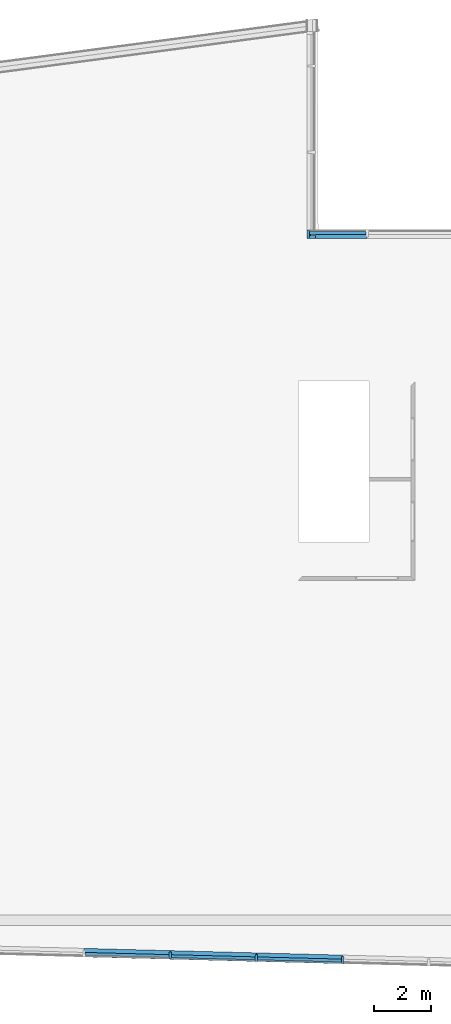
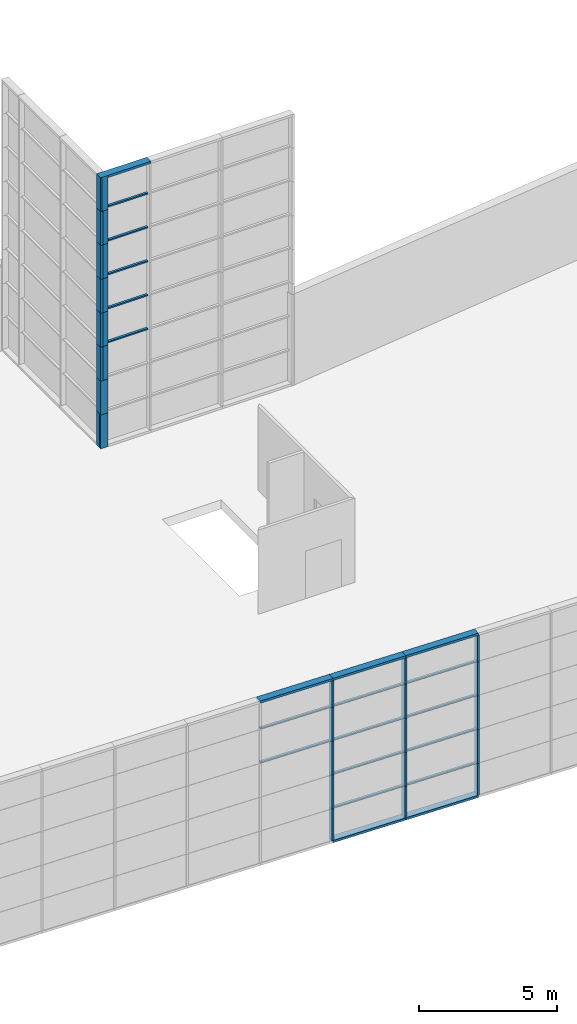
# One storey, part 4 of 27: 52 members, 3 elements without a shape of their own.
"""IFC2X3 building model written with IfcOpenShell, lengths in metres."""

from ifc_helpers import new_model, entity, si_unit, converted_unit, money_unit, direction, frame, origin_with_axes, place, context, subcontext, project, spatial, polyline, outline, extrude, clip, halfspace, material, type_object, element, aggregate, save


model = new_model("IFC2X3")

# Units and contexts
model_context = context("Model", 3, precision=1e-05, world=origin_with_axes(), true_north=direction((0.0, 1.0)))
body_context = subcontext(model_context, "Body", "Model", "MODEL_VIEW")
ifc_project = project(units=[si_unit("LENGTHUNIT", "METRE"), si_unit("AREAUNIT", "SQUARE_METRE"), si_unit("VOLUMEUNIT", "CUBIC_METRE"), converted_unit("PLANEANGLEUNIT", "DEGREE", entity("IfcPlaneAngleMeasure", 0.0174532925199), si_unit("PLANEANGLEUNIT", "RADIAN"), dimensions=[0, 0, 0, 0, 0, 0, 0]), si_unit("SOLIDANGLEUNIT", "STERADIAN"), money_unit("EUR"), converted_unit("TIMEUNIT", "Year", entity("IfcTimeMeasure", 31556926.0), si_unit("TIMEUNIT", "SECOND"), dimensions=[0, 0, 0, 0, 0, 0, 0]), si_unit("MASSUNIT", "GRAM"), si_unit("THERMODYNAMICTEMPERATUREUNIT", "DEGREE_CELSIUS"), si_unit("LUMINOUSINTENSITYUNIT", "LUMEN")], contexts=[model_context])

# Site, building, storey
site_placement = place(None, origin_with_axes())
site = spatial("IfcSite", under=ifc_project, at=site_placement, Name="Undefined", CompositionType="ELEMENT")
building_placement = place(site_placement, origin_with_axes())
building = spatial("IfcBuilding", under=site, at=building_placement, Name="Undefined", CompositionType="ELEMENT")
storey_placement = place(building_placement, frame((0.0, 0.0, 5.4), z_axis=(0.0, 0.0, 1.0), x_axis=(1.0, 0.0, 0.0)))
storey = spatial("IfcBuildingStorey", under=building, at=storey_placement, Name="R+1", CompositionType="ELEMENT", Elevation=5.4)

# Curtain wall, members
curtain_wall_type = type_object("IfcCurtainWallType", Name="Type de mur-rideau", PredefinedType="NOTDEFINED")
curtain_wall_1_placement = place(storey_placement, frame((29.5, 25.04409, 0.0), z_axis=(0.0, 0.0, 1.0), x_axis=(1.0, 0.0, 0.0)))
curtain_wall_1 = element("IfcCurtainWall", 1, at=curtain_wall_1_placement, inside=storey, type_object=curtain_wall_type, Name="CurtainWall_01", ObjectType="CURTAIN WALL")
ifc_material = material(Name="25 % 359672764")
member_type_1 = type_object("IfcMemberType", Name="Cadre 100 x 300", PredefinedType="NOTDEFINED")
member_1_placement = place(curtain_wall_1_placement, frame((0.0, -1.5, 0.0), z_axis=(0.0, 0.0, 1.0), x_axis=(0.0, -1.0, 0.0)))
member_1 = element("IfcMember", 2, at=member_1_placement, type_object=member_type_1, material=ifc_material, Name="Frame-Bnd-242", context=body_context, shape_type="Clipping", body=[
    clip(extrude(outline(polyline([(-0.25, 0.0), (0.05, 0.0), (0.05, 0.1), (-0.25, 0.1), (-0.25, 0.0)])), frame((0.0, 0.0, 0.0), z_axis=(0.0, 0.0, 1.0), x_axis=(0.0, 1.0, 0.0)), (0.0, 0.0, 1.0), 1.5), halfspace(frame((0.0, 0.0, 0.0), z_axis=(0.707106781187, 0.0, 0.707106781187), x_axis=(0.0, -1.0, 0.0)), True)),
])
member_2_placement = place(curtain_wall_1_placement, frame((0.0, -1.5, 1.5), z_axis=(0.0, 0.0, 1.0), x_axis=(0.0, -1.0, 0.0)))
member_2 = element("IfcMember", 3, at=member_2_placement, type_object=member_type_1, material=ifc_material, Name="Frame-Bnd-243", context=body_context, shape_type="SweptSolid", body=[
    extrude(outline(polyline([(-0.25, 0.0), (0.05, 0.0), (0.05, 0.1), (-0.25, 0.1), (-0.25, 0.0)])), frame((0.0, 0.0, 0.0), z_axis=(0.0, 0.0, 1.0), x_axis=(0.0, 1.0, 0.0)), (0.0, 0.0, 1.0), 1.5),
])
member_3_placement = place(curtain_wall_1_placement, frame((0.0, -1.5, 3.0), z_axis=(0.0, 0.0, 1.0), x_axis=(0.0, -1.0, 0.0)))
member_3 = element("IfcMember", 4, at=member_3_placement, type_object=member_type_1, material=ifc_material, Name="Frame-Bnd-244", context=body_context, shape_type="SweptSolid", body=[
    extrude(outline(polyline([(-0.25, 0.0), (0.05, 0.0), (0.05, 0.1), (-0.25, 0.1), (-0.25, 0.0)])), frame((0.0, 0.0, 0.0), z_axis=(0.0, 0.0, 1.0), x_axis=(0.0, 1.0, 0.0)), (0.0, 0.0, 1.0), 1.5),
])
member_4_placement = place(curtain_wall_1_placement, frame((0.0, -1.5, 4.5), z_axis=(0.0, 0.0, 1.0), x_axis=(0.0, -1.0, 0.0)))
member_4 = element("IfcMember", 5, at=member_4_placement, type_object=member_type_1, material=ifc_material, Name="Frame-Bnd-245", context=body_context, shape_type="SweptSolid", body=[
    extrude(outline(polyline([(-0.25, 0.0), (0.05, 0.0), (0.05, 0.1), (-0.25, 0.1), (-0.25, 0.0)])), frame((0.0, 0.0, 0.0), z_axis=(0.0, 0.0, 1.0), x_axis=(0.0, 1.0, 0.0)), (0.0, 0.0, 1.0), 1.5),
])
member_5_placement = place(curtain_wall_1_placement, frame((0.0, -1.5, 6.0), z_axis=(0.0, 0.0, 1.0), x_axis=(0.0, -1.0, 0.0)))
member_5 = element("IfcMember", 6, at=member_5_placement, type_object=member_type_1, material=ifc_material, Name="Frame-Bnd-246", context=body_context, shape_type="SweptSolid", body=[
    extrude(outline(polyline([(-0.25, 0.0), (0.05, 0.0), (0.05, 0.1), (-0.25, 0.1), (-0.25, 0.0)])), frame((0.0, 0.0, 0.0), z_axis=(0.0, 0.0, 1.0), x_axis=(0.0, 1.0, 0.0)), (0.0, 0.0, 1.0), 1.5),
])
member_6_placement = place(curtain_wall_1_placement, frame((0.0, -1.5, 7.5), z_axis=(0.0, 0.0, 1.0), x_axis=(0.0, -1.0, 0.0)))
member_6 = element("IfcMember", 7, at=member_6_placement, type_object=member_type_1, material=ifc_material, Name="Frame-Bnd-247", context=body_context, shape_type="SweptSolid", body=[
    extrude(outline(polyline([(-0.25, 0.0), (0.05, 0.0), (0.05, 0.1), (-0.25, 0.1), (-0.25, 0.0)])), frame((0.0, 0.0, 0.0), z_axis=(0.0, 0.0, 1.0), x_axis=(0.0, 1.0, 0.0)), (0.0, 0.0, 1.0), 1.5),
])
member_7_placement = place(curtain_wall_1_placement, frame((0.0, -1.5, 9.0), z_axis=(0.0, 0.0, 1.0), x_axis=(0.0, -1.0, 0.0)))
member_7 = element("IfcMember", 8, at=member_7_placement, type_object=member_type_1, material=ifc_material, Name="Frame-Bnd-248", context=body_context, shape_type="SweptSolid", body=[
    extrude(outline(polyline([(-0.25, 0.0), (0.05, 0.0), (0.05, 0.1), (-0.25, 0.1), (-0.25, 0.0)])), frame((0.0, 0.0, 0.0), z_axis=(0.0, 0.0, 1.0), x_axis=(0.0, 1.0, 0.0)), (0.0, 0.0, 1.0), 1.5),
])
member_8_placement = place(curtain_wall_1_placement, frame((0.0, -1.5, 10.5), z_axis=(0.0, 0.0, 1.0), x_axis=(0.0, -1.0, 0.0)))
member_8 = element("IfcMember", 9, at=member_8_placement, type_object=member_type_1, material=ifc_material, Name="Frame-Bnd-249", context=body_context, shape_type="Clipping", body=[
    clip(extrude(outline(polyline([(-0.25, 0.0), (0.05, 0.0), (0.05, 0.1), (-0.25, 0.1), (-0.25, 0.0)])), frame((0.0, 0.0, 0.0), z_axis=(0.0, 0.0, 1.0), x_axis=(0.0, 1.0, 0.0)), (0.0, 0.0, 1.0), 1.5), halfspace(frame((-0.75, 0.0, 0.75), z_axis=(0.707106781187, 0.0, -0.707106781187), x_axis=(0.0, 1.0, 0.0)), True)),
])
aggregate(curtain_wall_1, [member_1, member_2, member_3, member_4, member_5, member_6, member_7, member_8])

curtain_wall_2_placement = place(storey_placement, frame((35.8499996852, 23.7940983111, 0.0), z_axis=(0.0, 0.0, 1.0), x_axis=(1.0, 0.0, 0.0)))
curtain_wall_2 = element("IfcCurtainWall", 10, at=curtain_wall_2_placement, inside=storey, type_object=curtain_wall_type, Name="CurtainWall_01", ObjectType="CURTAIN WALL")
member_9_placement = place(curtain_wall_2_placement, frame((-4.5, -5.66665926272e-06, 12.0), z_axis=(-0.999999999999, -1.25925771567e-06, 0.0), x_axis=(0.0, 0.0, 1.0)))
member_9 = element("IfcMember", 11, at=member_9_placement, type_object=member_type_1, material=ifc_material, Name="Frame-Bnd-178", context=body_context, shape_type="Clipping", body=[
    clip(extrude(outline(polyline([(-0.25, 0.0), (0.05, 0.0), (0.05, 0.1), (-0.25, 0.1), (-0.25, 0.0)])), frame((0.0, 0.0, 0.0), z_axis=(0.0, 0.0, 1.0), x_axis=(0.0, 1.0, 0.0)), (0.0, 0.0, 1.0), 2.1), halfspace(frame((-1.05, 0.0, 1.05), z_axis=(0.707106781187, 0.0, -0.707106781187), x_axis=(0.0, 1.0, 0.0)), True)),
])
member_10_placement = place(curtain_wall_2_placement, frame((-6.59999999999, -8.31110046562e-06, 10.5), z_axis=(0.0, 0.0, 1.0), x_axis=(0.999999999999, 1.25925765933e-06, 0.0)))
member_10 = element("IfcMember", 12, at=member_10_placement, type_object=member_type_1, material=ifc_material, Name="Frame-Bnd-169", context=body_context, shape_type="Clipping", body=[
    clip(extrude(outline(polyline([(0.100000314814, -0.249999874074), (0.099999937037, 0.0500001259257), (-6.29628829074e-08, 0.05), (3.14814414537e-07, -0.25), (0.100000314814, -0.249999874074)])), frame((0.0, 0.0, 0.0), z_axis=(0.0, 0.0, 1.0), x_axis=(0.999999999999, -1.25925765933e-06, 0.0)), (0.0, 0.0, 1.0), 1.5), halfspace(frame((0.75, 0.0, 0.75), z_axis=(-0.707106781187, 0.0, -0.707106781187), x_axis=(0.0, 1.0, 0.0)), True)),
])
member_11_placement = place(curtain_wall_2_placement, frame((-6.59999999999, -8.31110046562e-06, 9.0), z_axis=(0.0, 0.0, 1.0), x_axis=(0.999999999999, 1.25925765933e-06, 0.0)))
member_11 = element("IfcMember", 13, at=member_11_placement, type_object=member_type_1, material=ifc_material, Name="Frame-Bnd-170", context=body_context, shape_type="SweptSolid", body=[
    extrude(outline(polyline([(0.100000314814, -0.249999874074), (0.099999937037, 0.0500001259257), (-6.29628829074e-08, 0.05), (3.14814414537e-07, -0.25), (0.100000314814, -0.249999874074)])), frame((0.0, 0.0, 0.0), z_axis=(0.0, 0.0, 1.0), x_axis=(0.999999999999, -1.25925765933e-06, 0.0)), (0.0, 0.0, 1.0), 1.5),
])
member_12_placement = place(curtain_wall_2_placement, frame((-6.59999999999, -8.31110046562e-06, 7.5), z_axis=(0.0, 0.0, 1.0), x_axis=(0.999999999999, 1.25925765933e-06, 0.0)))
member_12 = element("IfcMember", 14, at=member_12_placement, type_object=member_type_1, material=ifc_material, Name="Frame-Bnd-171", context=body_context, shape_type="SweptSolid", body=[
    extrude(outline(polyline([(0.100000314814, -0.249999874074), (0.099999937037, 0.0500001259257), (-6.29628829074e-08, 0.05), (3.14814414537e-07, -0.25), (0.100000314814, -0.249999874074)])), frame((0.0, 0.0, 0.0), z_axis=(0.0, 0.0, 1.0), x_axis=(0.999999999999, -1.25925765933e-06, 0.0)), (0.0, 0.0, 1.0), 1.5),
])
member_13_placement = place(curtain_wall_2_placement, frame((-6.59999999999, -8.31110046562e-06, 6.0), z_axis=(0.0, 0.0, 1.0), x_axis=(0.999999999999, 1.25925765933e-06, 0.0)))
member_13 = element("IfcMember", 15, at=member_13_placement, type_object=member_type_1, material=ifc_material, Name="Frame-Bnd-172", context=body_context, shape_type="SweptSolid", body=[
    extrude(outline(polyline([(0.100000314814, -0.249999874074), (0.099999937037, 0.0500001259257), (-6.29628829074e-08, 0.05), (3.14814414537e-07, -0.25), (0.100000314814, -0.249999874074)])), frame((0.0, 0.0, 0.0), z_axis=(0.0, 0.0, 1.0), x_axis=(0.999999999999, -1.25925765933e-06, 0.0)), (0.0, 0.0, 1.0), 1.5),
])
member_14_placement = place(curtain_wall_2_placement, frame((-6.59999999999, -8.31110046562e-06, 4.5), z_axis=(0.0, 0.0, 1.0), x_axis=(0.999999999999, 1.25925765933e-06, 0.0)))
member_14 = element("IfcMember", 16, at=member_14_placement, type_object=member_type_1, material=ifc_material, Name="Frame-Bnd-173", context=body_context, shape_type="SweptSolid", body=[
    extrude(outline(polyline([(0.100000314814, -0.249999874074), (0.099999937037, 0.0500001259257), (-6.29628829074e-08, 0.05), (3.14814414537e-07, -0.25), (0.100000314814, -0.249999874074)])), frame((0.0, 0.0, 0.0), z_axis=(0.0, 0.0, 1.0), x_axis=(0.999999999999, -1.25925765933e-06, 0.0)), (0.0, 0.0, 1.0), 1.5),
])
member_15_placement = place(curtain_wall_2_placement, frame((-6.59999999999, -8.31110046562e-06, 3.0), z_axis=(0.0, 0.0, 1.0), x_axis=(0.999999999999, 1.25925765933e-06, 0.0)))
member_15 = element("IfcMember", 17, at=member_15_placement, type_object=member_type_1, material=ifc_material, Name="Frame-Bnd-174", context=body_context, shape_type="SweptSolid", body=[
    extrude(outline(polyline([(0.100000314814, -0.249999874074), (0.099999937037, 0.0500001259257), (-6.29628829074e-08, 0.05), (3.14814414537e-07, -0.25), (0.100000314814, -0.249999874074)])), frame((0.0, 0.0, 0.0), z_axis=(0.0, 0.0, 1.0), x_axis=(0.999999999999, -1.25925765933e-06, 0.0)), (0.0, 0.0, 1.0), 1.5),
])
member_16_placement = place(curtain_wall_2_placement, frame((-6.59999999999, -8.31110046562e-06, 1.5), z_axis=(0.0, 0.0, 1.0), x_axis=(0.999999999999, 1.25925765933e-06, 0.0)))
member_16 = element("IfcMember", 18, at=member_16_placement, type_object=member_type_1, material=ifc_material, Name="Frame-Bnd-175", context=body_context, shape_type="SweptSolid", body=[
    extrude(outline(polyline([(0.100000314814, -0.249999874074), (0.099999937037, 0.0500001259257), (-6.29628829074e-08, 0.05), (3.14814414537e-07, -0.25), (0.100000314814, -0.249999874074)])), frame((0.0, 0.0, 0.0), z_axis=(0.0, 0.0, 1.0), x_axis=(0.999999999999, -1.25925765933e-06, 0.0)), (0.0, 0.0, 1.0), 1.5),
])
member_17_placement = place(curtain_wall_2_placement, frame((-6.59999999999, -8.31110046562e-06, 0.0), z_axis=(0.0, 0.0, 1.0), x_axis=(0.999999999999, 1.25925765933e-06, 0.0)))
member_17 = element("IfcMember", 19, at=member_17_placement, type_object=member_type_1, material=ifc_material, Name="Frame-Bnd-176", context=body_context, shape_type="Clipping", body=[
    clip(extrude(outline(polyline([(0.100000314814, -0.249999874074), (0.099999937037, 0.0500001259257), (-6.29628829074e-08, 0.05), (3.14814414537e-07, -0.25), (0.100000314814, -0.249999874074)])), frame((0.0, 0.0, 0.0), z_axis=(0.0, 0.0, 1.0), x_axis=(0.999999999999, -1.25925765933e-06, 0.0)), (0.0, 0.0, 1.0), 1.5), halfspace(frame((0.0, 0.0, 0.0), z_axis=(-0.707106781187, 0.0, 0.707106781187), x_axis=(0.0, -1.0, 0.0)), True)),
])

curtain_wall_3_placement = place(storey_placement, frame((10.9994920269, -1.13484133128, -0.55), z_axis=(0.0, 0.0, 1.0), x_axis=(1.0, 0.0, 0.0)))
curtain_wall_3 = element("IfcCurtainWall", 20, at=curtain_wall_3_placement, inside=storey, type_object=curtain_wall_type, Name="CurtainWall_01", ObjectType="CURTAIN WALL")
member_18_placement = place(curtain_wall_3_placement, frame((13.4954285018, -0.351296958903, 0.0), z_axis=(0.999661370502, -0.0260219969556, 0.0), x_axis=(0.0, 0.0, 1.0)))
member_18 = element("IfcMember", 21, at=member_18_placement, type_object=member_type_1, material=ifc_material, Name="Frame-Bnd-565", context=body_context, shape_type="SweptSolid", body=[
    extrude(outline(polyline([(-0.25, -0.1), (0.05, -0.1), (0.05, 0.0), (-0.25, 0.0), (-0.25, -0.1)])), frame((0.0, 0.0, 0.0), z_axis=(0.0, 0.0, 1.0), x_axis=(0.0, 1.0, 0.0)), (0.0, 0.0, 1.0), 3.0),
])
member_19_placement = place(curtain_wall_3_placement, frame((16.4944126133, -0.429362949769, 0.0), z_axis=(0.999661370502, -0.0260219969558, 0.0), x_axis=(0.0, 0.0, 1.0)))
member_19 = element("IfcMember", 22, at=member_19_placement, type_object=member_type_1, material=ifc_material, Name="Frame-Bnd-565", context=body_context, shape_type="SweptSolid", body=[
    extrude(outline(polyline([(-0.25, -0.1), (0.05, -0.1), (0.05, 0.0), (-0.25, 0.0), (-0.25, -0.1)])), frame((0.0, 0.0, 0.0), z_axis=(0.0, 0.0, 1.0), x_axis=(0.0, 1.0, 0.0)), (0.0, 0.0, 1.0), 3.0),
])
member_20_placement = place(curtain_wall_3_placement, frame((13.4954285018, -0.351296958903, 7.27506830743), z_axis=(-0.999661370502, 0.0260219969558, 0.0), x_axis=(0.0, 0.0, -1.0)))
member_20 = element("IfcMember", 23, at=member_20_placement, type_object=member_type_1, material=ifc_material, Name="Frame-Bnd-852", context=body_context, shape_type="SweptSolid", body=[
    extrude(outline(polyline([(0.25, 0.1), (-0.05, 0.1), (-0.05, 0.0), (0.25, 0.0), (0.25, 0.1)])), frame((0.0, 0.0, 0.0), z_axis=(0.0, 0.0, 1.0), x_axis=(0.0, -1.0, 0.0)), (0.0, 0.0, 1.0), 3.0),
])
member_21_placement = place(curtain_wall_3_placement, frame((16.4944126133, -0.429362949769, 7.27506830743), z_axis=(-0.999661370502, 0.0260219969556, 0.0), x_axis=(0.0, 0.0, -1.0)))
member_21 = element("IfcMember", 24, at=member_21_placement, type_object=member_type_1, material=ifc_material, Name="Frame-Bnd-853", context=body_context, shape_type="SweptSolid", body=[
    extrude(outline(polyline([(0.25, 0.1), (-0.05, 0.1), (-0.05, 0.0), (0.25, 0.0), (0.25, 0.1)])), frame((0.0, 0.0, 0.0), z_axis=(0.0, 0.0, 1.0), x_axis=(0.0, -1.0, 0.0)), (0.0, 0.0, 1.0), 3.0),
])
member_22_placement = place(curtain_wall_3_placement, frame((19.4933967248, -0.507428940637, 7.27506830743), z_axis=(-0.999661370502, 0.0260219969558, 0.0), x_axis=(0.0, 0.0, -1.0)))
member_22 = element("IfcMember", 25, at=member_22_placement, type_object=member_type_1, material=ifc_material, Name="Frame-Bnd-854", context=body_context, shape_type="SweptSolid", body=[
    extrude(outline(polyline([(0.25, 0.1), (-0.05, 0.1), (-0.05, 0.0), (0.25, 0.0), (0.25, 0.1)])), frame((0.0, 0.0, 0.0), z_axis=(0.0, 0.0, 1.0), x_axis=(0.0, -1.0, 0.0)), (0.0, 0.0, 1.0), 3.0),
])
member_type_2 = type_object("IfcMemberType", Name="Montant 80 x 250", PredefinedType="NOTDEFINED")
member_23_placement = place(curtain_wall_3_placement, frame((13.4954285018, -0.351296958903, 0.0), z_axis=(0.0, 0.0, 1.0), x_axis=(-0.999661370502, 0.0260219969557, 0.0)))
member_23 = element("IfcMember", 26, at=member_23_placement, type_object=member_type_2, material=ifc_material, Name="Frame-Mll-209", context=body_context, shape_type="SweptSolid", body=[
    extrude(outline(polyline([(-0.0347820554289, 0.200973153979), (-0.0412875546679, -0.0489421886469), (0.0386853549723, -0.0510239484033), (0.0451908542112, 0.198891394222), (-0.0347820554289, 0.200973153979)])), frame((0.0, 0.0, 0.1), z_axis=(0.0, 0.0, 1.0), x_axis=(-0.999661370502, -0.0260219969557, 0.0)), (0.0, 0.0, 1.0), 1.4),
])
member_24_placement = place(curtain_wall_3_placement, frame((16.4944126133, -0.429362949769, 0.0), z_axis=(0.0, 0.0, 1.0), x_axis=(-0.999661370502, 0.0260219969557, 0.0)))
member_24 = element("IfcMember", 27, at=member_24_placement, type_object=member_type_2, material=ifc_material, Name="Frame-Mll-209", context=body_context, shape_type="SweptSolid", body=[
    extrude(outline(polyline([(-0.0347820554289, 0.200973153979), (-0.0412875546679, -0.0489421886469), (0.0386853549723, -0.0510239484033), (0.0451908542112, 0.198891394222), (-0.0347820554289, 0.200973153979)])), frame((0.0, 0.0, 0.1), z_axis=(0.0, 0.0, 1.0), x_axis=(-0.999661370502, -0.0260219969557, 0.0)), (0.0, 0.0, 1.0), 1.4),
])
member_25_placement = place(curtain_wall_3_placement, frame((19.4933967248, -0.507428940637, 0.0), z_axis=(0.0, 0.0, 1.0), x_axis=(-0.999661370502, 0.0260219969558, 0.0)))
member_25 = element("IfcMember", 28, at=member_25_placement, type_object=member_type_2, material=ifc_material, Name="Frame-Mll-209", context=body_context, shape_type="SweptSolid", body=[
    extrude(outline(polyline([(-0.0347820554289, 0.200973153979), (-0.0412875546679, -0.0489421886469), (0.0386853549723, -0.0510239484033), (0.0451908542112, 0.198891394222), (-0.0347820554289, 0.200973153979)])), frame((0.0, 0.0, 0.1), z_axis=(0.0, 0.0, 1.0), x_axis=(-0.999661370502, -0.0260219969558, 0.0)), (0.0, 0.0, 1.0), 1.4),
])
member_26_placement = place(curtain_wall_3_placement, frame((13.4954285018, -0.351296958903, 1.5), z_axis=(0.0, 0.0, 1.0), x_axis=(-0.999661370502, 0.0260219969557, 0.0)))
member_26 = element("IfcMember", 29, at=member_26_placement, type_object=member_type_2, material=ifc_material, Name="Frame-Mll-209", context=body_context, shape_type="SweptSolid", body=[
    extrude(outline(polyline([(-0.0347820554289, 0.200973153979), (-0.0412875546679, -0.0489421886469), (0.0386853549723, -0.0510239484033), (0.0451908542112, 0.198891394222), (-0.0347820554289, 0.200973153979)])), frame((0.0, 0.0, 0.0), z_axis=(0.0, 0.0, 1.0), x_axis=(-0.999661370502, -0.0260219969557, 0.0)), (0.0, 0.0, 1.0), 1.5),
])
member_27_placement = place(curtain_wall_3_placement, frame((16.4944126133, -0.429362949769, 1.5), z_axis=(0.0, 0.0, 1.0), x_axis=(-0.999661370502, 0.0260219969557, 0.0)))
member_27 = element("IfcMember", 30, at=member_27_placement, type_object=member_type_2, material=ifc_material, Name="Frame-Mll-209", context=body_context, shape_type="SweptSolid", body=[
    extrude(outline(polyline([(-0.0347820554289, 0.200973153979), (-0.0412875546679, -0.0489421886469), (0.0386853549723, -0.0510239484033), (0.0451908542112, 0.198891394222), (-0.0347820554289, 0.200973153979)])), frame((0.0, 0.0, 0.0), z_axis=(0.0, 0.0, 1.0), x_axis=(-0.999661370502, -0.0260219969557, 0.0)), (0.0, 0.0, 1.0), 1.5),
])
member_28_placement = place(curtain_wall_3_placement, frame((19.4933967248, -0.507428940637, 1.5), z_axis=(0.0, 0.0, 1.0), x_axis=(-0.999661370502, 0.0260219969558, 0.0)))
member_28 = element("IfcMember", 31, at=member_28_placement, type_object=member_type_2, material=ifc_material, Name="Frame-Mll-209", context=body_context, shape_type="SweptSolid", body=[
    extrude(outline(polyline([(-0.0347820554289, 0.200973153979), (-0.0412875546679, -0.0489421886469), (0.0386853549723, -0.0510239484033), (0.0451908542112, 0.198891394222), (-0.0347820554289, 0.200973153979)])), frame((0.0, 0.0, 0.0), z_axis=(0.0, 0.0, 1.0), x_axis=(-0.999661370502, -0.0260219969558, 0.0)), (0.0, 0.0, 1.0), 1.5),
])
member_29_placement = place(curtain_wall_3_placement, frame((13.4954285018, -0.351296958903, 3.0), z_axis=(0.0, 0.0, 1.0), x_axis=(-0.999661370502, 0.0260219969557, 0.0)))
member_29 = element("IfcMember", 32, at=member_29_placement, type_object=member_type_2, material=ifc_material, Name="Frame-Mll-209", context=body_context, shape_type="SweptSolid", body=[
    extrude(outline(polyline([(-0.0347820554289, 0.200973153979), (-0.0412875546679, -0.0489421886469), (0.0386853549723, -0.0510239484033), (0.0451908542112, 0.198891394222), (-0.0347820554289, 0.200973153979)])), frame((0.0, 0.0, 0.0), z_axis=(0.0, 0.0, 1.0), x_axis=(-0.999661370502, -0.0260219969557, 0.0)), (0.0, 0.0, 1.0), 1.5),
])
member_30_placement = place(curtain_wall_3_placement, frame((16.4944126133, -0.429362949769, 3.0), z_axis=(0.0, 0.0, 1.0), x_axis=(-0.999661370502, 0.0260219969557, 0.0)))
member_30 = element("IfcMember", 33, at=member_30_placement, type_object=member_type_2, material=ifc_material, Name="Frame-Mll-209", context=body_context, shape_type="SweptSolid", body=[
    extrude(outline(polyline([(-0.0347820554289, 0.200973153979), (-0.0412875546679, -0.0489421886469), (0.0386853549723, -0.0510239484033), (0.0451908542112, 0.198891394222), (-0.0347820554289, 0.200973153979)])), frame((0.0, 0.0, 0.0), z_axis=(0.0, 0.0, 1.0), x_axis=(-0.999661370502, -0.0260219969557, 0.0)), (0.0, 0.0, 1.0), 1.5),
])
member_31_placement = place(curtain_wall_3_placement, frame((19.4933967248, -0.507428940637, 3.0), z_axis=(0.0, 0.0, 1.0), x_axis=(-0.999661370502, 0.0260219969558, 0.0)))
member_31 = element("IfcMember", 34, at=member_31_placement, type_object=member_type_2, material=ifc_material, Name="Frame-Mll-209", context=body_context, shape_type="SweptSolid", body=[
    extrude(outline(polyline([(-0.0347820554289, 0.200973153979), (-0.0412875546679, -0.0489421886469), (0.0386853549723, -0.0510239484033), (0.0451908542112, 0.198891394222), (-0.0347820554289, 0.200973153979)])), frame((0.0, 0.0, 0.0), z_axis=(0.0, 0.0, 1.0), x_axis=(-0.999661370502, -0.0260219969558, 0.0)), (0.0, 0.0, 1.0), 1.5),
])
member_32_placement = place(curtain_wall_3_placement, frame((13.4954285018, -0.351296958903, 4.5), z_axis=(0.0, 0.0, 1.0), x_axis=(-0.999661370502, 0.0260219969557, 0.0)))
member_32 = element("IfcMember", 35, at=member_32_placement, type_object=member_type_2, material=ifc_material, Name="Frame-Mll-209", context=body_context, shape_type="SweptSolid", body=[
    extrude(outline(polyline([(-0.0347820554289, 0.200973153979), (-0.0412875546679, -0.0489421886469), (0.0386853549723, -0.0510239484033), (0.0451908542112, 0.198891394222), (-0.0347820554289, 0.200973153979)])), frame((0.0, 0.0, 0.0), z_axis=(0.0, 0.0, 1.0), x_axis=(-0.999661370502, -0.0260219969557, 0.0)), (0.0, 0.0, 1.0), 1.5),
])
member_33_placement = place(curtain_wall_3_placement, frame((16.4944126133, -0.429362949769, 4.5), z_axis=(0.0, 0.0, 1.0), x_axis=(-0.999661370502, 0.0260219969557, 0.0)))
member_33 = element("IfcMember", 36, at=member_33_placement, type_object=member_type_2, material=ifc_material, Name="Frame-Mll-209", context=body_context, shape_type="SweptSolid", body=[
    extrude(outline(polyline([(-0.0347820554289, 0.200973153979), (-0.0412875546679, -0.0489421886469), (0.0386853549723, -0.0510239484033), (0.0451908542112, 0.198891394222), (-0.0347820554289, 0.200973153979)])), frame((0.0, 0.0, 0.0), z_axis=(0.0, 0.0, 1.0), x_axis=(-0.999661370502, -0.0260219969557, 0.0)), (0.0, 0.0, 1.0), 1.5),
])
member_34_placement = place(curtain_wall_3_placement, frame((19.4933967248, -0.507428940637, 4.5), z_axis=(0.0, 0.0, 1.0), x_axis=(-0.999661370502, 0.0260219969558, 0.0)))
member_34 = element("IfcMember", 37, at=member_34_placement, type_object=member_type_2, material=ifc_material, Name="Frame-Mll-209", context=body_context, shape_type="SweptSolid", body=[
    extrude(outline(polyline([(-0.0347820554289, 0.200973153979), (-0.0412875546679, -0.0489421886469), (0.0386853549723, -0.0510239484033), (0.0451908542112, 0.198891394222), (-0.0347820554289, 0.200973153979)])), frame((0.0, 0.0, 0.0), z_axis=(0.0, 0.0, 1.0), x_axis=(-0.999661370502, -0.0260219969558, 0.0)), (0.0, 0.0, 1.0), 1.5),
])
member_35_placement = place(curtain_wall_3_placement, frame((13.4954285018, -0.351296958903, 6.0), z_axis=(0.0, 0.0, 1.0), x_axis=(-0.999661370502, 0.0260219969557, 0.0)))
member_35 = element("IfcMember", 38, at=member_35_placement, type_object=member_type_2, material=ifc_material, Name="Frame-Mll-209", context=body_context, shape_type="SweptSolid", body=[
    extrude(outline(polyline([(-0.0347820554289, 0.200973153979), (-0.0412875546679, -0.0489421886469), (0.0386853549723, -0.0510239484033), (0.0451908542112, 0.198891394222), (-0.0347820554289, 0.200973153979)])), frame((0.0, 0.0, 0.0), z_axis=(0.0, 0.0, 1.0), x_axis=(-0.999661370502, -0.0260219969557, 0.0)), (0.0, 0.0, 1.0), 1.17506830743),
])
member_36_placement = place(curtain_wall_3_placement, frame((16.4944126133, -0.429362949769, 6.0), z_axis=(0.0, 0.0, 1.0), x_axis=(-0.999661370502, 0.0260219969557, 0.0)))
member_36 = element("IfcMember", 39, at=member_36_placement, type_object=member_type_2, material=ifc_material, Name="Frame-Mll-209", context=body_context, shape_type="SweptSolid", body=[
    extrude(outline(polyline([(-0.0347820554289, 0.200973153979), (-0.0412875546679, -0.0489421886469), (0.0386853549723, -0.0510239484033), (0.0451908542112, 0.198891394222), (-0.0347820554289, 0.200973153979)])), frame((0.0, 0.0, 0.0), z_axis=(0.0, 0.0, 1.0), x_axis=(-0.999661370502, -0.0260219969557, 0.0)), (0.0, 0.0, 1.0), 1.17506830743),
])
member_37_placement = place(curtain_wall_3_placement, frame((19.4933967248, -0.507428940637, 6.0), z_axis=(0.0, 0.0, 1.0), x_axis=(-0.999661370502, 0.0260219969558, 0.0)))
member_37 = element("IfcMember", 40, at=member_37_placement, type_object=member_type_2, material=ifc_material, Name="Frame-Mll-209", context=body_context, shape_type="SweptSolid", body=[
    extrude(outline(polyline([(-0.0347820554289, 0.200973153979), (-0.0412875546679, -0.0489421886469), (0.0386853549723, -0.0510239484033), (0.0451908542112, 0.198891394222), (-0.0347820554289, 0.200973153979)])), frame((0.0, 0.0, 0.0), z_axis=(0.0, 0.0, 1.0), x_axis=(-0.999661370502, -0.0260219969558, 0.0)), (0.0, 0.0, 1.0), 1.17506830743),
])

# Member
member_type_3 = type_object("IfcMemberType", Name="Traverse 60 x 100", PredefinedType="NOTDEFINED")
member_38_placement = place(curtain_wall_2_placement, frame((-4.5, -5.66665926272e-06, 10.5), z_axis=(-0.999999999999, -1.25925771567e-06, 0.0), x_axis=(0.0, 0.0, 1.0)))
member_38 = element("IfcMember", 41, at=member_38_placement, type_object=member_type_3, material=ifc_material, Name="Frame-Trs-983", context=body_context, shape_type="SweptSolid", body=[
    extrude(outline(polyline([(-0.11, -0.03), (-0.01, -0.03), (-0.01, 0.03), (-0.11, 0.03), (-0.11, -0.03)])), frame((0.0, 0.0, 0.04), z_axis=(0.0, 0.0, 1.0), x_axis=(0.0, 1.0, 0.0)), (0.0, 0.0, 1.0), 1.96),
])

member_39_placement = place(curtain_wall_2_placement, frame((-4.5, -5.66665926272e-06, 9.0), z_axis=(-0.999999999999, -1.25925771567e-06, 0.0), x_axis=(0.0, 0.0, 1.0)))
member_39 = element("IfcMember", 42, at=member_39_placement, type_object=member_type_3, material=ifc_material, Name="Frame-Trs-984", context=body_context, shape_type="SweptSolid", body=[
    extrude(outline(polyline([(-0.11, -0.03), (-0.01, -0.03), (-0.01, 0.03), (-0.11, 0.03), (-0.11, -0.03)])), frame((0.0, 0.0, 0.04), z_axis=(0.0, 0.0, 1.0), x_axis=(0.0, 1.0, 0.0)), (0.0, 0.0, 1.0), 1.96),
])

member_40_placement = place(curtain_wall_2_placement, frame((-4.5, -5.66665926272e-06, 7.5), z_axis=(-0.999999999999, -1.25925771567e-06, 0.0), x_axis=(0.0, 0.0, 1.0)))
member_40 = element("IfcMember", 43, at=member_40_placement, type_object=member_type_3, material=ifc_material, Name="Frame-Trs-985", context=body_context, shape_type="SweptSolid", body=[
    extrude(outline(polyline([(-0.11, -0.03), (-0.01, -0.03), (-0.01, 0.03), (-0.11, 0.03), (-0.11, -0.03)])), frame((0.0, 0.0, 0.04), z_axis=(0.0, 0.0, 1.0), x_axis=(0.0, 1.0, 0.0)), (0.0, 0.0, 1.0), 1.96),
])

member_41_placement = place(curtain_wall_2_placement, frame((-4.5, -5.66665926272e-06, 6.0), z_axis=(-0.999999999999, -1.25925771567e-06, 0.0), x_axis=(0.0, 0.0, 1.0)))
member_41 = element("IfcMember", 44, at=member_41_placement, type_object=member_type_3, material=ifc_material, Name="Frame-Trs-986", context=body_context, shape_type="SweptSolid", body=[
    extrude(outline(polyline([(-0.11, -0.03), (-0.01, -0.03), (-0.01, 0.03), (-0.11, 0.03), (-0.11, -0.03)])), frame((0.0, 0.0, 0.04), z_axis=(0.0, 0.0, 1.0), x_axis=(0.0, 1.0, 0.0)), (0.0, 0.0, 1.0), 1.96),
])

member_42_placement = place(curtain_wall_2_placement, frame((-4.5, -5.66665926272e-06, 4.5), z_axis=(-0.999999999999, -1.25925771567e-06, 0.0), x_axis=(0.0, 0.0, 1.0)))
member_42 = element("IfcMember", 45, at=member_42_placement, type_object=member_type_3, material=ifc_material, Name="Frame-Trs-987", context=body_context, shape_type="SweptSolid", body=[
    extrude(outline(polyline([(-0.11, -0.03), (-0.01, -0.03), (-0.01, 0.03), (-0.11, 0.03), (-0.11, -0.03)])), frame((0.0, 0.0, 0.04), z_axis=(0.0, 0.0, 1.0), x_axis=(0.0, 1.0, 0.0)), (0.0, 0.0, 1.0), 1.96),
])

aggregate(curtain_wall_2, [member_9, member_10, member_38, member_11, member_39, member_12, member_40, member_13, member_41, member_14, member_42, member_15, member_16, member_17])

member_43_placement = place(curtain_wall_3_placement, frame((13.4954285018, -0.351296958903, 1.5), z_axis=(0.999661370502, -0.0260219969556, 0.0), x_axis=(0.0, 0.0, 1.0)))
member_43 = element("IfcMember", 46, at=member_43_placement, type_object=member_type_3, material=ifc_material, Name="Frame-Trs-501", context=body_context, shape_type="SweptSolid", body=[
    extrude(outline(polyline([(-0.11, -0.03), (-0.01, -0.03), (-0.01, 0.03), (-0.11, 0.03), (-0.11, -0.03)])), frame((0.0, 0.0, 0.04), z_axis=(0.0, 0.0, 1.0), x_axis=(0.0, 1.0, 0.0)), (0.0, 0.0, 1.0), 2.92),
])

member_44_placement = place(curtain_wall_3_placement, frame((16.4944126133, -0.429362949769, 1.5), z_axis=(0.999661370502, -0.0260219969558, 0.0), x_axis=(0.0, 0.0, 1.0)))
member_44 = element("IfcMember", 47, at=member_44_placement, type_object=member_type_3, material=ifc_material, Name="Frame-Trs-501", context=body_context, shape_type="SweptSolid", body=[
    extrude(outline(polyline([(-0.11, -0.03), (-0.01, -0.03), (-0.01, 0.03), (-0.11, 0.03), (-0.11, -0.03)])), frame((0.0, 0.0, 0.04), z_axis=(0.0, 0.0, 1.0), x_axis=(0.0, 1.0, 0.0)), (0.0, 0.0, 1.0), 2.92),
])

member_45_placement = place(curtain_wall_3_placement, frame((13.4954285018, -0.351296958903, 3.0), z_axis=(0.999661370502, -0.0260219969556, 0.0), x_axis=(0.0, 0.0, 1.0)))
member_45 = element("IfcMember", 48, at=member_45_placement, type_object=member_type_3, material=ifc_material, Name="Frame-Trs-501", context=body_context, shape_type="SweptSolid", body=[
    extrude(outline(polyline([(-0.11, -0.03), (-0.01, -0.03), (-0.01, 0.03), (-0.11, 0.03), (-0.11, -0.03)])), frame((0.0, 0.0, 0.04), z_axis=(0.0, 0.0, 1.0), x_axis=(0.0, 1.0, 0.0)), (0.0, 0.0, 1.0), 2.92),
])

member_46_placement = place(curtain_wall_3_placement, frame((16.4944126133, -0.429362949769, 3.0), z_axis=(0.999661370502, -0.0260219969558, 0.0), x_axis=(0.0, 0.0, 1.0)))
member_46 = element("IfcMember", 49, at=member_46_placement, type_object=member_type_3, material=ifc_material, Name="Frame-Trs-501", context=body_context, shape_type="SweptSolid", body=[
    extrude(outline(polyline([(-0.11, -0.03), (-0.01, -0.03), (-0.01, 0.03), (-0.11, 0.03), (-0.11, -0.03)])), frame((0.0, 0.0, 0.04), z_axis=(0.0, 0.0, 1.0), x_axis=(0.0, 1.0, 0.0)), (0.0, 0.0, 1.0), 2.92),
])

member_47_placement = place(curtain_wall_3_placement, frame((10.4964443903, -0.273230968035, 4.5), z_axis=(0.999661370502, -0.0260219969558, 0.0), x_axis=(0.0, 0.0, 1.0)))
member_47 = element("IfcMember", 50, at=member_47_placement, type_object=member_type_3, material=ifc_material, Name="Frame-Trs-501", context=body_context, shape_type="SweptSolid", body=[
    extrude(outline(polyline([(-0.11, -0.03), (-0.01, -0.03), (-0.01, 0.03), (-0.11, 0.03), (-0.11, -0.03)])), frame((0.0, 0.0, 0.04), z_axis=(0.0, 0.0, 1.0), x_axis=(0.0, 1.0, 0.0)), (0.0, 0.0, 1.0), 2.92),
])

member_48_placement = place(curtain_wall_3_placement, frame((13.4954285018, -0.351296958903, 4.5), z_axis=(0.999661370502, -0.0260219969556, 0.0), x_axis=(0.0, 0.0, 1.0)))
member_48 = element("IfcMember", 51, at=member_48_placement, type_object=member_type_3, material=ifc_material, Name="Frame-Trs-501", context=body_context, shape_type="SweptSolid", body=[
    extrude(outline(polyline([(-0.11, -0.03), (-0.01, -0.03), (-0.01, 0.03), (-0.11, 0.03), (-0.11, -0.03)])), frame((0.0, 0.0, 0.04), z_axis=(0.0, 0.0, 1.0), x_axis=(0.0, 1.0, 0.0)), (0.0, 0.0, 1.0), 2.92),
])

member_49_placement = place(curtain_wall_3_placement, frame((16.4944126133, -0.429362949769, 4.5), z_axis=(0.999661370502, -0.0260219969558, 0.0), x_axis=(0.0, 0.0, 1.0)))
member_49 = element("IfcMember", 52, at=member_49_placement, type_object=member_type_3, material=ifc_material, Name="Frame-Trs-501", context=body_context, shape_type="SweptSolid", body=[
    extrude(outline(polyline([(-0.11, -0.03), (-0.01, -0.03), (-0.01, 0.03), (-0.11, 0.03), (-0.11, -0.03)])), frame((0.0, 0.0, 0.04), z_axis=(0.0, 0.0, 1.0), x_axis=(0.0, 1.0, 0.0)), (0.0, 0.0, 1.0), 2.92),
])

member_50_placement = place(curtain_wall_3_placement, frame((10.4964443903, -0.273230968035, 6.0), z_axis=(0.999661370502, -0.0260219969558, 0.0), x_axis=(0.0, 0.0, 1.0)))
member_50 = element("IfcMember", 53, at=member_50_placement, type_object=member_type_3, material=ifc_material, Name="Frame-Trs-501", context=body_context, shape_type="SweptSolid", body=[
    extrude(outline(polyline([(-0.11, -0.03), (-0.01, -0.03), (-0.01, 0.03), (-0.11, 0.03), (-0.11, -0.03)])), frame((0.0, 0.0, 0.04), z_axis=(0.0, 0.0, 1.0), x_axis=(0.0, 1.0, 0.0)), (0.0, 0.0, 1.0), 2.92),
])

member_51_placement = place(curtain_wall_3_placement, frame((13.4954285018, -0.351296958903, 6.0), z_axis=(0.999661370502, -0.0260219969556, 0.0), x_axis=(0.0, 0.0, 1.0)))
member_51 = element("IfcMember", 54, at=member_51_placement, type_object=member_type_3, material=ifc_material, Name="Frame-Trs-501", context=body_context, shape_type="SweptSolid", body=[
    extrude(outline(polyline([(-0.11, -0.03), (-0.01, -0.03), (-0.01, 0.03), (-0.11, 0.03), (-0.11, -0.03)])), frame((0.0, 0.0, 0.04), z_axis=(0.0, 0.0, 1.0), x_axis=(0.0, 1.0, 0.0)), (0.0, 0.0, 1.0), 2.92),
])

member_52_placement = place(curtain_wall_3_placement, frame((16.4944126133, -0.429362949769, 6.0), z_axis=(0.999661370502, -0.0260219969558, 0.0), x_axis=(0.0, 0.0, 1.0)))
member_52 = element("IfcMember", 55, at=member_52_placement, type_object=member_type_3, material=ifc_material, Name="Frame-Trs-501", context=body_context, shape_type="SweptSolid", body=[
    extrude(outline(polyline([(-0.11, -0.03), (-0.01, -0.03), (-0.01, 0.03), (-0.11, 0.03), (-0.11, -0.03)])), frame((0.0, 0.0, 0.04), z_axis=(0.0, 0.0, 1.0), x_axis=(0.0, 1.0, 0.0)), (0.0, 0.0, 1.0), 2.92),
])

aggregate(curtain_wall_3, [member_18, member_23, member_19, member_24, member_25, member_43, member_26, member_44, member_27, member_28, member_45, member_29, member_46, member_30, member_31, member_47, member_48, member_32, member_49, member_33, member_34, member_50, member_51, member_52, member_35, member_36, member_37, member_20, member_21, member_22])

save(model, "model.ifc")
